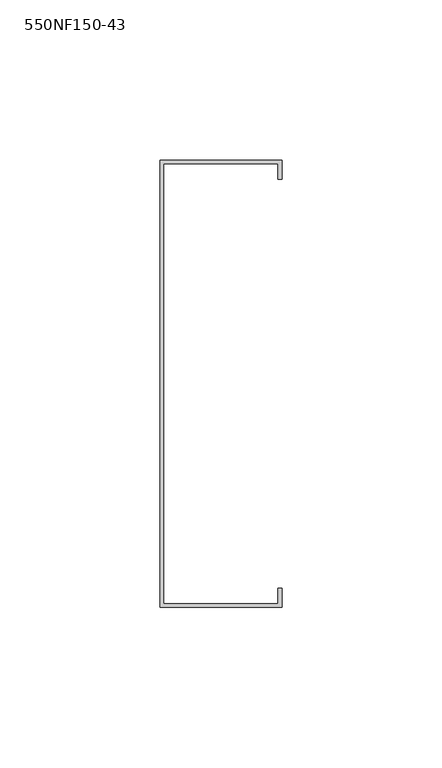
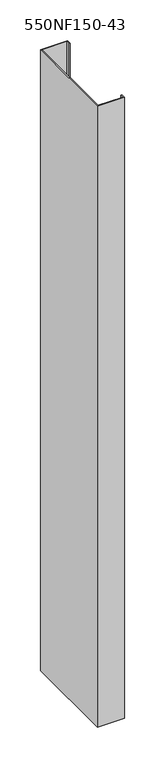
"""IFC4 building model written with IfcOpenShell, lengths in millimetres: column geometry, BIMSF-SSMA-S-Column : 550NF150-43."""

import ifcopenshell
import ifcopenshell.guid

model = None  # the IFC model being written
_history = None  # IfcOwnerHistory: only IFC2X3 demands one
_inside = {}  # id of a spatial element -> (the spatial element, [elements in it])
_under = {}  # id of a project, library or spatial element -> (it, [spatial elements below it])
_declared = {}  # id of a project -> (the project, [libraries it declares])
_typed = {}  # id of a type object -> (the type object, [elements of that type])
_made_of = {}  # id of a material, layer set ... -> (it, [elements and type objects made of it])


def new_model(schema):
    """Start an empty IFC model of exactly this schema.

    Asked for "IFC4X3", IfcOpenShell would pick the latest addendum, in which some entities
    have other attributes; the version numbers below select the first issue.
    IFC2X3 requires an IfcOwnerHistory on every rooted entity: one is made here for all.
    """
    global model, _history
    if schema == "IFC4X3":
        model = ifcopenshell.file(schema_version=(4, 3, 0, 0))
    else:
        model = ifcopenshell.file(schema=schema)
    _inside.clear()
    _under.clear()
    _declared.clear()
    _typed.clear()
    _made_of.clear()
    _history = None
    if model.schema == "IFC2X3":
        org = make("IfcOrganization", Name="unknown")
        user = make(
            "IfcPersonAndOrganization",
            ThePerson=make("IfcPerson", FamilyName="unknown"),
            TheOrganization=org,
        )
        app = make(
            "IfcApplication",
            ApplicationDeveloper=org,
            Version="unknown",
            ApplicationFullName="unknown",
            ApplicationIdentifier="unknown",
        )
        _history = make(
            "IfcOwnerHistory",
            OwningUser=user,
            OwningApplication=app,
            ChangeAction="ADDED",
            CreationDate=0,
        )
    return model


def make(cls, **values):
    """One entity of the class cls with the attributes given. An attribute that is None is left unset."""
    return model.create_entity(
        cls, **{name: value for name, value in values.items() if value is not None}
    )


def rooted(cls, **values):
    """An entity with a GlobalId (a new one), such as an element, a storey or a relation."""
    return make(cls, GlobalId=ifcopenshell.guid.new(), OwnerHistory=_history, **values)


def si_unit(unit_type, name, prefix=None):
    """IfcSIUnit, for example si_unit("LENGTHUNIT", "METRE", prefix="MILLI")."""
    return make("IfcSIUnit", UnitType=unit_type, Prefix=prefix, Name=name)


def assignment(units):
    """IfcUnitAssignment: the units of a project."""
    return None if units is None else make("IfcUnitAssignment", Units=units)


def point(xyz):
    """IfcCartesianPoint."""
    return None if xyz is None else make("IfcCartesianPoint", Coordinates=xyz)


def direction(xyz):
    """IfcDirection."""
    return None if xyz is None else make("IfcDirection", DirectionRatios=xyz)


def frame(location, z_axis=None, x_axis=None):
    """IfcAxis2Placement3D, a coordinate frame: its origin and axes. An axis left out is left unset."""
    return make(
        "IfcAxis2Placement3D",
        Location=point(location),
        Axis=direction(z_axis),
        RefDirection=direction(x_axis),
    )


def origin():
    """The frame at (0, 0, 0) with its axes left unset."""
    return frame((0.0, 0.0, 0.0))


def place(relative_to, where):
    """IfcLocalPlacement: puts the frame where relative to a parent placement (None: the world)."""
    return make(
        "IfcLocalPlacement", PlacementRelTo=relative_to, RelativePlacement=where
    )


def context(
    kind, dimensions, precision=None, world=None, true_north=None, identifier=None
):
    """IfcGeometricRepresentationContext, for example the 3D "Model" context."""
    return make(
        "IfcGeometricRepresentationContext",
        ContextIdentifier=identifier,
        ContextType=kind,
        CoordinateSpaceDimension=dimensions,
        Precision=precision,
        WorldCoordinateSystem=world,
        TrueNorth=true_north,
    )


def project(units=None, contexts=None):
    """IfcProject with its units and contexts."""
    return rooted(
        "IfcProject",
        Name="project",
        RepresentationContexts=contexts,
        UnitsInContext=assignment(units),
    )


def spatial(cls, under=None, at=None, **own):
    """A site, building, storey or space (cls), placed at a placement, below another one or the project."""
    s = rooted(cls, ObjectPlacement=at, **own)
    if under is not None:
        _under.setdefault(under.id(), (under, []))[1].append(s)
    return s


def polyline(points):
    """IfcPolyline through the points."""
    return make("IfcPolyline", Points=[point(p) for p in points])


def outline(outer, holes=None, kind="AREA"):
    """IfcArbitraryClosedProfileDef: a profile drawn as a closed curve; with holes, ...WithVoids."""
    if holes is None:
        return make("IfcArbitraryClosedProfileDef", ProfileType=kind, OuterCurve=outer)
    return make(
        "IfcArbitraryProfileDefWithVoids",
        ProfileType=kind,
        OuterCurve=outer,
        InnerCurves=holes,
    )


def extrude(swept, where, along, depth):
    """IfcExtrudedAreaSolid: the profile swept, set in the frame where, extruded along a direction by depth."""
    return make(
        "IfcExtrudedAreaSolid",
        SweptArea=swept,
        Position=where,
        ExtrudedDirection=direction(along),
        Depth=depth,
    )


def shape(context_of_items, identifier, shape_type, items):
    """IfcShapeRepresentation: the items that make up one representation, for example the "Body"."""
    return make(
        "IfcShapeRepresentation",
        ContextOfItems=context_of_items,
        RepresentationIdentifier=identifier,
        RepresentationType=shape_type,
        Items=items,
    )


def source(mapping_origin, context_of_items, identifier, shape_type, items):
    """IfcRepresentationMap: a shape defined once, which mapped items show again and again."""
    return make(
        "IfcRepresentationMap",
        MappingOrigin=mapping_origin,
        MappedRepresentation=shape(context_of_items, identifier, shape_type, items),
    )


def transform(
    local_origin,
    x_axis=None,
    y_axis=None,
    z_axis=None,
    scale=None,
    scale2=None,
    scale3=None,
    uniform=True,
):
    """IfcCartesianTransformationOperator3D, or its non-uniform kind. x_axis, y_axis, z_axis: its Axis1, 2, 3."""
    if uniform:
        return make(
            "IfcCartesianTransformationOperator3D",
            Axis1=direction(x_axis),
            Axis2=direction(y_axis),
            LocalOrigin=point(local_origin),
            Scale=scale,
            Axis3=direction(z_axis),
        )
    return make(
        "IfcCartesianTransformationOperator3DnonUniform",
        Axis1=direction(x_axis),
        Axis2=direction(y_axis),
        LocalOrigin=point(local_origin),
        Scale=scale,
        Axis3=direction(z_axis),
        Scale2=scale2,
        Scale3=scale3,
    )


def mapped(mapping_source, mapping_target):
    """IfcMappedItem: shows the shape of a source again, moved by a transform."""
    return make(
        "IfcMappedItem", MappingSource=mapping_source, MappingTarget=mapping_target
    )


def made_of(thing, what):
    """Note that an element or type object is made of a material, layer set ...; save() writes the relation."""
    if what is not None:
        _made_of.setdefault(what.id(), (what, []))[1].append(thing)
    return thing


def element(
    cls,
    number,
    at=None,
    inside=None,
    cuts=None,
    type_object=None,
    material=None,
    context=None,
    identifier="Body",
    shape_type=None,
    held_by="IfcProductDefinitionShape",
    body=None,
    shapes=None,
    **own,
):
    """One element of the class cls, such as IfcWall. Its Tag is "e" and its number.

    at: its placement. inside: the storey or other place that contains it. cuts: it is an
    opening in that element (IfcRelVoidsElement). A single representation is given by context,
    identifier, shape_type and body (its items); several are given by shapes. held_by: the class
    of the entity that holds the representations. save() writes the other relations.
    """
    e = rooted(cls, Tag="e%d" % number, ObjectPlacement=at, **own)
    if body is not None:
        shapes = [shape(context, identifier, shape_type, body)]
    if shapes is not None:
        e.Representation = make(held_by, Representations=shapes)
    if inside is not None:
        _inside.setdefault(inside.id(), (inside, []))[1].append(e)
    if cuts is not None:
        rooted(
            "IfcRelVoidsElement", RelatingBuildingElement=cuts, RelatedOpeningElement=e
        )
    if type_object is not None:
        _typed.setdefault(type_object.id(), (type_object, []))[1].append(e)
    return made_of(e, material)


def aggregate(whole, parts):
    """IfcRelAggregates: a whole, such as a stair, and the parts it consists of."""
    return rooted("IfcRelAggregates", RelatingObject=whole, RelatedObjects=parts)


def save(model, path):
    """Write the relations noted so far, then the file.

    IfcRelAggregates (storeys below a building ...), IfcRelContainedInSpatialStructure (elements
    in a storey), IfcRelDefinesByType, IfcRelAssociatesMaterial and IfcRelDeclares: one each for
    every whole, place, type object, material and project.
    """
    for whole, parts in _under.values():
        aggregate(whole, parts)
    for where, things in _inside.values():
        rooted(
            "IfcRelContainedInSpatialStructure",
            RelatedElements=things,
            RelatingStructure=where,
        )
    for kind, things in _typed.values():
        rooted("IfcRelDefinesByType", RelatedObjects=things, RelatingType=kind)
    for what, things in _made_of.values():
        rooted("IfcRelAssociatesMaterial", RelatedObjects=things, RelatingMaterial=what)
    for by, libraries in _declared.values():
        rooted("IfcRelDeclares", RelatingContext=by, RelatedDefinitions=libraries)
    model.write(path)


def column_550nf150_43_58886016(model_context):
    return source(origin(), model_context, "Body", "SweptSolid", [
        extrude(outline(polyline([(-11.9977877, -80.5871249), (-11.9977877, 59.1128751), (26.1022123, 59.1128751), (26.1022123, 53.1879908), (24.952528, 53.1879908), (24.952528, 57.9631908), (-10.8481035, 57.9631908), (-10.8481035, -79.4374407), (24.952528, -79.4374407), (24.952528, -74.6622407), (26.1022123, -74.6622407), (26.1022123, -80.5871249), (-11.9977877, -80.5871249)])), frame((0.0, 0.0, 5525.3929688), z_axis=(0.0, 0.0, 1.0), x_axis=(1.0, 0.0, 0.0)), (0.0, 0.0, 1.0), 930.4396659),
    ])


if __name__ == "__main__":
    model = new_model("IFC4")
    model_context = context("Model", 3, world=origin())
    ifc_project = project(units=[si_unit("LENGTHUNIT", "METRE", prefix="MILLI")], contexts=[model_context])
    site = spatial("IfcSite", under=ifc_project)
    building = spatial("IfcBuilding", under=site)
    placement = place(None, origin())
    column_550nf150_43_shape = column_550nf150_43_58886016(model_context)
    element("IfcColumn", 1, ObjectType="BIMSF-SSMA-S-Column : 550NF150-43", at=placement, inside=building, context=model_context, shape_type="MappedRepresentation", body=[
        mapped(column_550nf150_43_shape, transform((0.0, 0.0, 0.0), x_axis=(1.0, 0.0, 0.0), y_axis=(0.0, 1.0, 0.0), z_axis=(0.0, 0.0, 1.0))),
    ])
    save(model, "model.ifc")
